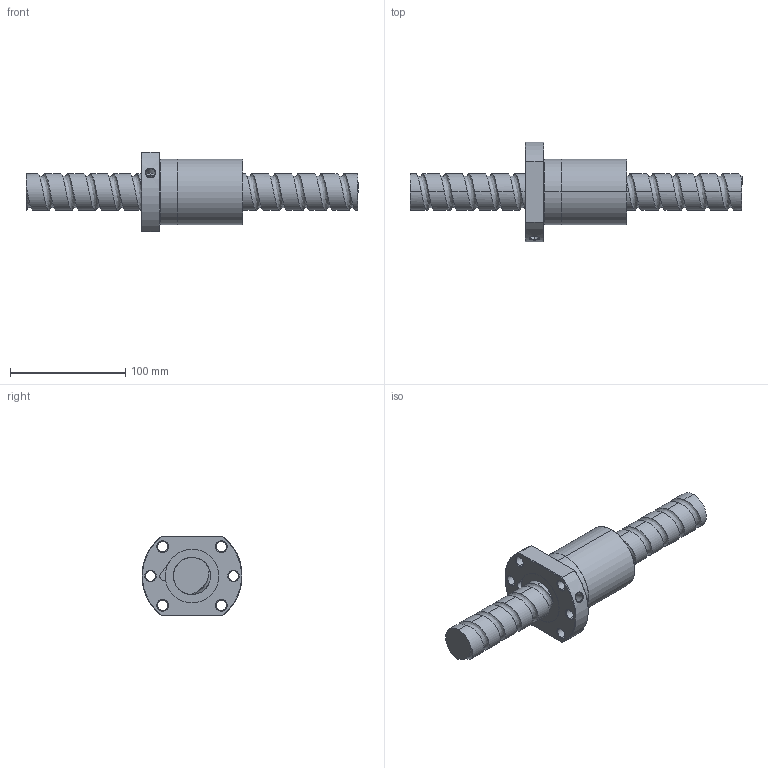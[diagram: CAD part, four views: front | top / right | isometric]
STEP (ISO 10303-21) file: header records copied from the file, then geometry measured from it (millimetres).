
FILE_DESCRIPTION (( 'STEP AP214' ), '1' );
FILE_NAME ('FSDC03220T3-F-C.STEP', '2010-06-25T12:27:38', ( 'XPAUTO' ), ( 'XPAUTO' ), 'SwSTEP 2.0', 'SolidWorks 2007', '' );
FILE_SCHEMA (( 'AUTOMOTIVE_DESIGN' ));
Length unit declared in the file: millimetre
Products named in the file (3): FSDC03220T3-F-C.sldasm-Part-1_預設; FSDC03220T3-F-C; FSDC03220T3-F-C.sldasm-Part-2_預設
Assembly tree (2 placements, depth 2):
  FSDC03220T3-F-C
    FSDC03220T3-F-C.sldasm-Part-2_預設
    FSDC03220T3-F-C.sldasm-Part-1_預設
Bounding box: 288 x 86.7 x 69 mm (x, y, z)
Volume: 404189 mm3; surface area: 70556.4 mm2
Topology: 2 solids, 2 shells, 125 faces, 309 edges, 193 vertices
Faces by surface type: cylinder 68, cone 24, plane 22, torus 6, bspline 5
Entity records: 25119 total; most frequent: CARTESIAN_POINT 22142, ORIENTED_EDGE 618, DIRECTION 583, EDGE_CURVE 309, AXIS2_PLACEMENT_3D 237, VERTEX_POINT 193, EDGE_LOOP 146, ADVANCED_FACE 125
